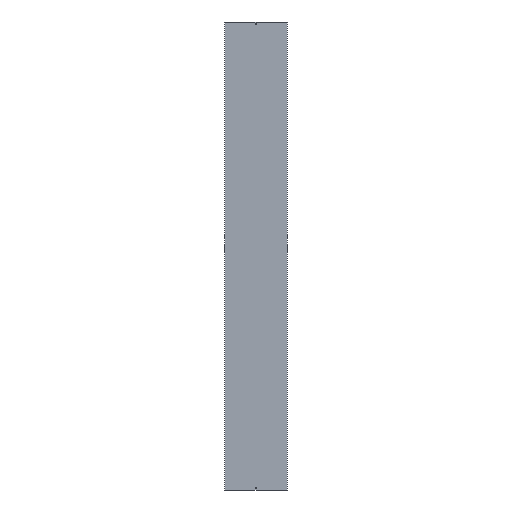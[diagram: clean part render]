
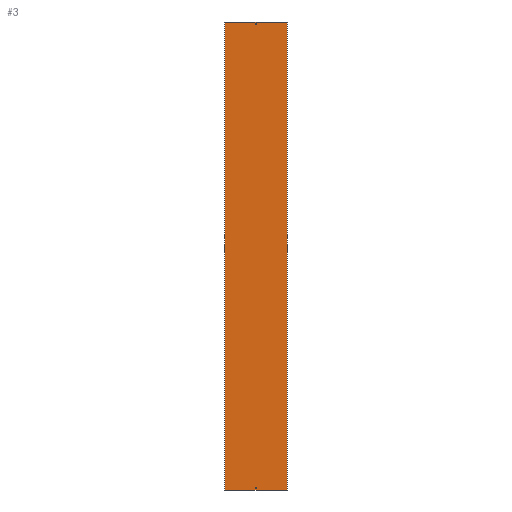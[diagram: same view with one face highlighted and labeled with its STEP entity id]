
A CAD part, front view. The second image highlights one B-rep face of the part: STEP entity #3.
In plain terms, the highlighted planar face has unit normal (0, -1, 0).
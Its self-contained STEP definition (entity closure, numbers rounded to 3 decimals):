
#1 = CARTESIAN_POINT ( 'NONE',  ( -3., -1., 1488.5 ) ) ;
#3 = ADVANCED_FACE ( 'NONE', ( #331, #467, #568 ), #242, .T. ) ;
#8 = VERTEX_POINT ( 'NONE', #385 ) ;
#18 = LINE ( 'NONE', #431, #528 ) ;
#20 = VECTOR ( 'NONE', #196, 1000. ) ;
#21 = DIRECTION ( 'NONE',  ( 0., 0., -1. ) ) ;
#22 = ORIENTED_EDGE ( 'NONE', *, *, #294, .F. ) ;
#23 = DIRECTION ( 'NONE',  ( 0., -1., 0. ) ) ;
#31 = AXIS2_PLACEMENT_3D ( 'NONE', #527, #23, #21 ) ;
#38 = CARTESIAN_POINT ( 'NONE',  ( -200., -1., 1500. ) ) ;
#54 = EDGE_CURVE ( 'NONE', #8, #227, #18, .T. ) ;
#56 = CARTESIAN_POINT ( 'NONE',  ( -3., -1., 1500. ) ) ;
#89 = DIRECTION ( 'NONE',  ( -1., 0., 0. ) ) ;
#90 = VERTEX_POINT ( 'NONE', #155 ) ;
#92 = VERTEX_POINT ( 'NONE', #515 ) ;
#100 = CARTESIAN_POINT ( 'NONE',  ( 3., -1., 1500. ) ) ;
#107 = VERTEX_POINT ( 'NONE', #117 ) ;
#110 = EDGE_CURVE ( 'NONE', #227, #107, #308, .T. ) ;
#117 = CARTESIAN_POINT ( 'NONE',  ( -200., -1., -1500. ) ) ;
#131 = DIRECTION ( 'NONE',  ( -1., 0., 0. ) ) ;
#133 = VECTOR ( 'NONE', #131, 1000. ) ;
#134 = ORIENTED_EDGE ( 'NONE', *, *, #184, .T. ) ;
#136 = EDGE_CURVE ( 'NONE', #320, #90, #209, .T. ) ;
#148 = LINE ( 'NONE', #100, #336 ) ;
#151 = LINE ( 'NONE', #326, #409 ) ;
#155 = CARTESIAN_POINT ( 'NONE',  ( 3., -1., 1488.5 ) ) ;
#168 = CARTESIAN_POINT ( 'NONE',  ( -201., -1., 1488.5 ) ) ;
#172 = VECTOR ( 'NONE', #412, 1000. ) ;
#173 = LINE ( 'NONE', #348, #204 ) ;
#174 = DIRECTION ( 'NONE',  ( 0., 0., -1. ) ) ;
#181 = VECTOR ( 'NONE', #300, 1000. ) ;
#184 = EDGE_CURVE ( 'NONE', #273, #558, #440, .T. ) ;
#195 = ORIENTED_EDGE ( 'NONE', *, *, #382, .F. ) ;
#196 = DIRECTION ( 'NONE',  ( 0., 0., -1. ) ) ;
#201 = ORIENTED_EDGE ( 'NONE', *, *, #324, .T. ) ;
#204 = VECTOR ( 'NONE', #538, 1000. ) ;
#209 = LINE ( 'NONE', #346, #472 ) ;
#210 = CARTESIAN_POINT ( 'NONE',  ( -201., -1., 1481.5 ) ) ;
#211 = CARTESIAN_POINT ( 'NONE',  ( -3., -1., -1481.5 ) ) ;
#227 = VERTEX_POINT ( 'NONE', #321 ) ;
#232 = CARTESIAN_POINT ( 'NONE',  ( 200., -1., 1500. ) ) ;
#233 = ORIENTED_EDGE ( 'NONE', *, *, #508, .F. ) ;
#235 = VECTOR ( 'NONE', #174, 1000. ) ;
#236 = VERTEX_POINT ( 'NONE', #275 ) ;
#242 = PLANE ( 'NONE',  #31 ) ;
#264 = CARTESIAN_POINT ( 'NONE',  ( 3., -1., -1481.5 ) ) ;
#265 = ORIENTED_EDGE ( 'NONE', *, *, #136, .F. ) ;
#267 = DIRECTION ( 'NONE',  ( 0., 0., -1. ) ) ;
#273 = VERTEX_POINT ( 'NONE', #456 ) ;
#275 = CARTESIAN_POINT ( 'NONE',  ( -3., -1., 1481.5 ) ) ;
#281 = EDGE_LOOP ( 'NONE', ( #134, #464, #290, #201 ) ) ;
#282 = VECTOR ( 'NONE', #544, 1000. ) ;
#290 = ORIENTED_EDGE ( 'NONE', *, *, #477, .T. ) ;
#294 = EDGE_CURVE ( 'NONE', #374, #236, #310, .T. ) ;
#300 = DIRECTION ( 'NONE',  ( 0., 0., 1. ) ) ;
#301 = CARTESIAN_POINT ( 'NONE',  ( -201., -1., -1488.5 ) ) ;
#308 = LINE ( 'NONE', #38, #235 ) ;
#310 = LINE ( 'NONE', #507, #172 ) ;
#320 = VERTEX_POINT ( 'NONE', #358 ) ;
#321 = CARTESIAN_POINT ( 'NONE',  ( -200., -1., 1500. ) ) ;
#324 = EDGE_CURVE ( 'NONE', #328, #273, #148, .T. ) ;
#326 = CARTESIAN_POINT ( 'NONE',  ( -201., -1., -1500. ) ) ;
#328 = VERTEX_POINT ( 'NONE', #264 ) ;
#331 = FACE_BOUND ( 'NONE', #551, .T. ) ;
#336 = VECTOR ( 'NONE', #267, 1000. ) ;
#346 = CARTESIAN_POINT ( 'NONE',  ( 3., -1., 1500. ) ) ;
#348 = CARTESIAN_POINT ( 'NONE',  ( -201., -1., -1481.5 ) ) ;
#349 = CARTESIAN_POINT ( 'NONE',  ( -3., -1., -1488.5 ) ) ;
#353 = LINE ( 'NONE', #56, #181 ) ;
#356 = LINE ( 'NONE', #168, #282 ) ;
#358 = CARTESIAN_POINT ( 'NONE',  ( 3., -1., 1481.5 ) ) ;
#359 = EDGE_CURVE ( 'NONE', #92, #107, #151, .T. ) ;
#374 = VERTEX_POINT ( 'NONE', #1 ) ;
#382 = EDGE_CURVE ( 'NONE', #8, #92, #565, .T. ) ;
#385 = CARTESIAN_POINT ( 'NONE',  ( 200., -1., 1500. ) ) ;
#394 = LINE ( 'NONE', #210, #481 ) ;
#409 = VECTOR ( 'NONE', #89, 1000. ) ;
#412 = DIRECTION ( 'NONE',  ( 0., 0., -1. ) ) ;
#415 = EDGE_CURVE ( 'NONE', #236, #320, #394, .T. ) ;
#416 = ORIENTED_EDGE ( 'NONE', *, *, #54, .T. ) ;
#427 = EDGE_LOOP ( 'NONE', ( #549, #195, #416, #432 ) ) ;
#431 = CARTESIAN_POINT ( 'NONE',  ( -201., -1., 1500. ) ) ;
#432 = ORIENTED_EDGE ( 'NONE', *, *, #110, .T. ) ;
#440 = LINE ( 'NONE', #301, #133 ) ;
#454 = ORIENTED_EDGE ( 'NONE', *, *, #415, .F. ) ;
#456 = CARTESIAN_POINT ( 'NONE',  ( 3., -1., -1488.5 ) ) ;
#464 = ORIENTED_EDGE ( 'NONE', *, *, #548, .T. ) ;
#467 = FACE_OUTER_BOUND ( 'NONE', #427, .T. ) ;
#472 = VECTOR ( 'NONE', #577, 1000. ) ;
#477 = EDGE_CURVE ( 'NONE', #529, #328, #173, .T. ) ;
#481 = VECTOR ( 'NONE', #579, 1000. ) ;
#507 = CARTESIAN_POINT ( 'NONE',  ( -3., -1., 1500. ) ) ;
#508 = EDGE_CURVE ( 'NONE', #90, #374, #356, .T. ) ;
#515 = CARTESIAN_POINT ( 'NONE',  ( 200., -1., -1500. ) ) ;
#527 = CARTESIAN_POINT ( 'NONE',  ( -201., -1., 1500. ) ) ;
#528 = VECTOR ( 'NONE', #566, 1000. ) ;
#529 = VERTEX_POINT ( 'NONE', #211 ) ;
#538 = DIRECTION ( 'NONE',  ( 1., 0., 0. ) ) ;
#544 = DIRECTION ( 'NONE',  ( -1., 0., 0. ) ) ;
#548 = EDGE_CURVE ( 'NONE', #558, #529, #353, .T. ) ;
#549 = ORIENTED_EDGE ( 'NONE', *, *, #359, .F. ) ;
#551 = EDGE_LOOP ( 'NONE', ( #22, #233, #265, #454 ) ) ;
#558 = VERTEX_POINT ( 'NONE', #349 ) ;
#565 = LINE ( 'NONE', #232, #20 ) ;
#566 = DIRECTION ( 'NONE',  ( -1., 0., 0. ) ) ;
#568 = FACE_BOUND ( 'NONE', #281, .T. ) ;
#577 = DIRECTION ( 'NONE',  ( 0., 0., 1. ) ) ;
#579 = DIRECTION ( 'NONE',  ( 1., 0., 0. ) ) ;
